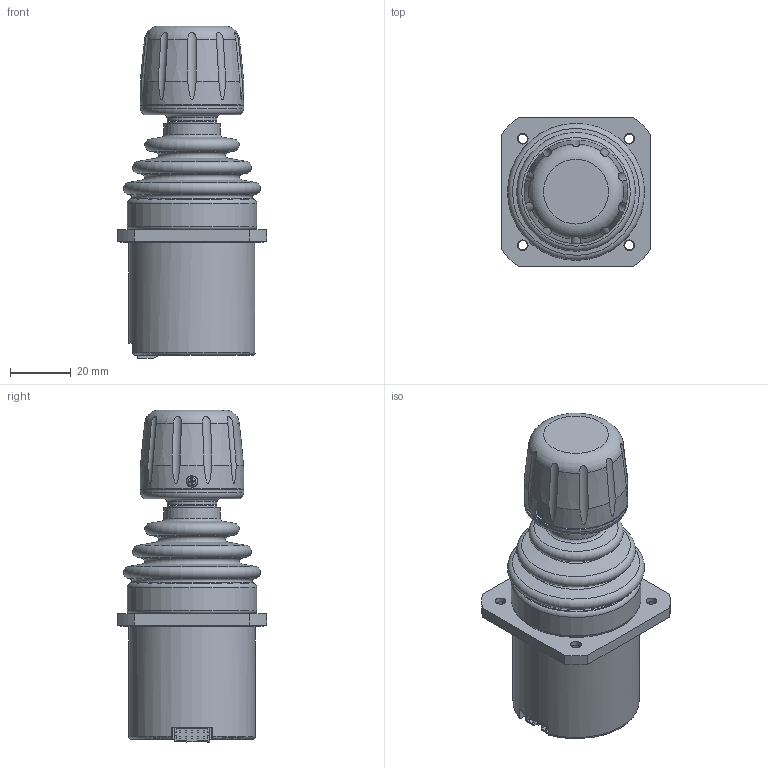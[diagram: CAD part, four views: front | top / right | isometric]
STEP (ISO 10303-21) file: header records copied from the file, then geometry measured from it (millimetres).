
FILE_DESCRIPTION (( 'STEP AP214' ), '1' );
FILE_NAME ('''19_6_14儊僈僩儘儞_H40JHK-ZU-3S0R3G.STEP', '2019-06-13T23:47:18', ( '' ), ( '' ), 'SwSTEP 2.0', 'SolidWorks 2018', '' );
FILE_SCHEMA (( 'AUTOMOTIVE_DESIGN' ));
Length unit declared in the file: millimetre
Products named in the file (1): ''19_6_14儊僈僩儘儞_H40JHK-ZU-3S0R3G
Bounding box: 49 x 49 x 109.05 mm (x, y, z)
Volume: 118952.2 mm3; surface area: 21990 mm2
Topology: 1 solids, 5 shells, 435 faces, 1096 edges, 718 vertices
Faces by surface type: plane 249, cylinder 117, cone 46, torus 18, sphere 5
Full cylindrical faces by diameter (mm): 2 x3, 2.2 x3, 2.3 x3, 3 x4, 3.5 x4, 3.8 x5, 4.5 x4, 5 x1, 9 x1, 16.4 x2, 18.6 x1, 32 x1, 34 x2, 41.5 x1, 42 x1, 42.6 x1
Entity records: 13351 total; most frequent: CARTESIAN_POINT 3010, DIRECTION 2183, ORIENTED_EDGE 2022, EDGE_CURVE 1011, AXIS2_PLACEMENT_3D 808, VERTEX_POINT 699, LINE 567, VECTOR 567
